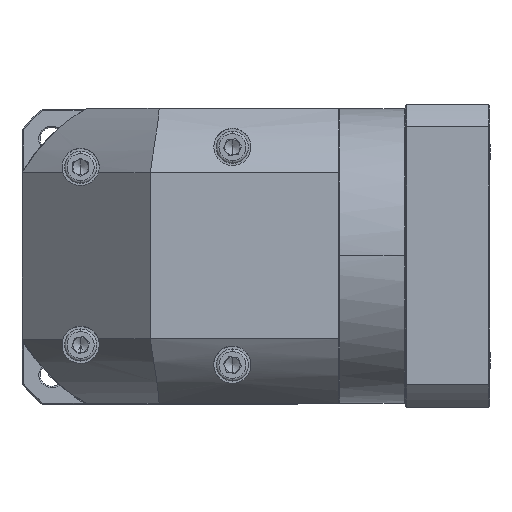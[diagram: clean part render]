
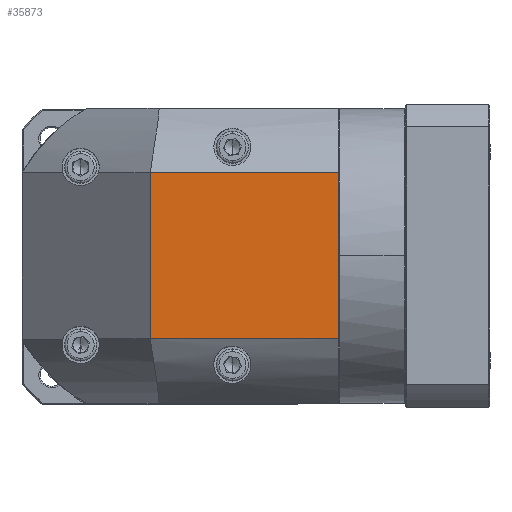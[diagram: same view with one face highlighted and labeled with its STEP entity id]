
A CAD part, top view. The second image highlights one B-rep face of the part: STEP entity #35873.
In plain terms, the highlighted planar face has unit normal (0, 0, 1).
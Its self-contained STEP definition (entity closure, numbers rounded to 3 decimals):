
#1647 = CARTESIAN_POINT ( 'NONE',  ( -9.285, 37.434, 73.117 ) ) ;
#2738 = ORIENTED_EDGE ( 'NONE', *, *, #62176, .F. ) ;
#6140 = FACE_OUTER_BOUND ( 'NONE', #50880, .T. ) ;
#19788 = EDGE_CURVE ( 'NONE', #94908, #46508, #101411, .T. ) ;
#27874 = VERTEX_POINT ( 'NONE', #66040 ) ;
#35873 = ADVANCED_FACE ( 'NONE', ( #6140 ), #48573, .F. ) ;
#39764 = DIRECTION ( 'NONE',  ( 0., 0., -1. ) ) ;
#46508 = VERTEX_POINT ( 'NONE', #136849 ) ;
#48573 = PLANE ( 'NONE',  #110761 ) ;
#50880 = EDGE_LOOP ( 'NONE', ( #84427, #2738, #125662, #63982 ) ) ;
#62062 = VERTEX_POINT ( 'NONE', #131847 ) ;
#62176 = EDGE_CURVE ( 'NONE', #46508, #62062, #131268, .T. ) ;
#62435 = EDGE_CURVE ( 'NONE', #62062, #27874, #66303, .T. ) ;
#63982 = ORIENTED_EDGE ( 'NONE', *, *, #106137, .F. ) ;
#66040 = CARTESIAN_POINT ( 'NONE',  ( 114.115, 102.234, 73.117 ) ) ;
#66303 = LINE ( 'NONE', #76407, #71129 ) ;
#71129 = VECTOR ( 'NONE', #97753, 1000. ) ;
#71925 = CARTESIAN_POINT ( 'NONE',  ( 114.115, 37.434, 73.117 ) ) ;
#75748 = VECTOR ( 'NONE', #100786, 1000. ) ;
#76407 = CARTESIAN_POINT ( 'NONE',  ( -9.285, 102.234, 73.117 ) ) ;
#84427 = ORIENTED_EDGE ( 'NONE', *, *, #62435, .F. ) ;
#84775 = VECTOR ( 'NONE', #128145, 1000. ) ;
#92804 = DIRECTION ( 'NONE',  ( 0., -1., 0. ) ) ;
#94908 = VERTEX_POINT ( 'NONE', #71925 ) ;
#97753 = DIRECTION ( 'NONE',  ( 1., 0., 0. ) ) ;
#100786 = DIRECTION ( 'NONE',  ( 0., -1., 0. ) ) ;
#101411 = LINE ( 'NONE', #1647, #84775 ) ;
#104792 = DIRECTION ( 'NONE',  ( 0., 1., 0. ) ) ;
#106137 = EDGE_CURVE ( 'NONE', #27874, #94908, #120598, .T. ) ;
#110761 = AXIS2_PLACEMENT_3D ( 'NONE', #112835, #39764, #92804 ) ;
#112835 = CARTESIAN_POINT ( 'NONE',  ( 48.215, 69.834, 73.117 ) ) ;
#120598 = LINE ( 'NONE', #121804, #75748 ) ;
#121804 = CARTESIAN_POINT ( 'NONE',  ( 114.115, 127.334, 73.117 ) ) ;
#124614 = VECTOR ( 'NONE', #104792, 1000. ) ;
#125662 = ORIENTED_EDGE ( 'NONE', *, *, #19788, .F. ) ;
#128145 = DIRECTION ( 'NONE',  ( -1., 0., 0. ) ) ;
#131268 = LINE ( 'NONE', #136441, #124614 ) ;
#131847 = CARTESIAN_POINT ( 'NONE',  ( 40.715, 102.234, 73.117 ) ) ;
#136441 = CARTESIAN_POINT ( 'NONE',  ( 40.715, 127.334, 73.117 ) ) ;
#136849 = CARTESIAN_POINT ( 'NONE',  ( 40.715, 37.434, 73.117 ) ) ;
